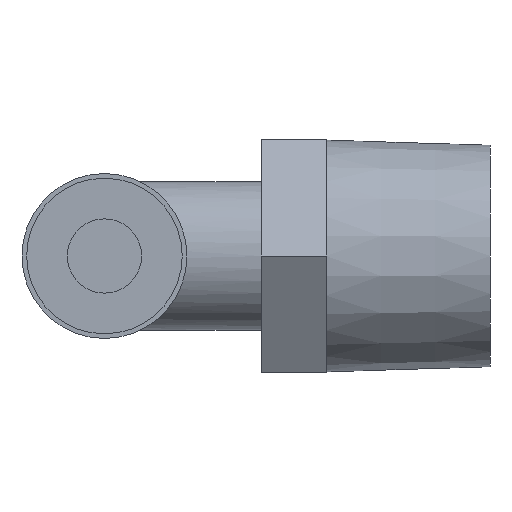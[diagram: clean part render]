
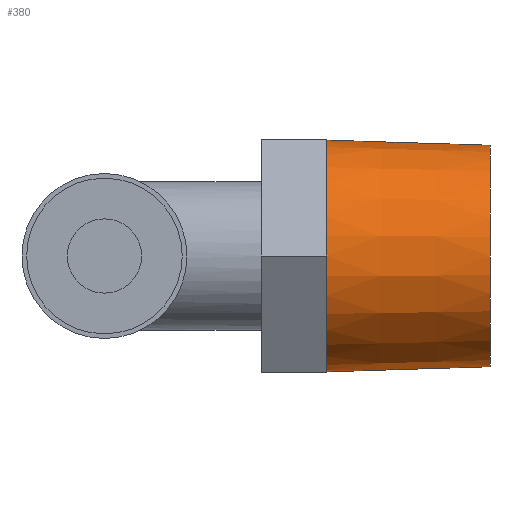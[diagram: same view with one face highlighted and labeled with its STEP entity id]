
A CAD part, left-side view. The second image highlights one B-rep face of the part: STEP entity #380.
In plain terms, the highlighted conical face has half-angle 1.788 degrees and reference radius 4.989 mm.
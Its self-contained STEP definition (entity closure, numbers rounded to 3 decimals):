
#20=CONICAL_SURFACE('',#427,4.989,0.031);
#113=ORIENTED_EDGE('',*,*,#181,.F.);
#114=ORIENTED_EDGE('',*,*,#182,.T.);
#181=EDGE_CURVE('',#216,#216,#237,.T.);
#182=EDGE_CURVE('',#217,#217,#238,.T.);
#216=VERTEX_POINT('',#640);
#217=VERTEX_POINT('',#643);
#237=CIRCLE('',#426,4.769);
#238=CIRCLE('',#428,4.989);
#268=EDGE_LOOP('',(#113));
#269=EDGE_LOOP('',(#114));
#320=FACE_BOUND('',#268,.T.);
#321=FACE_BOUND('',#269,.T.);
#380=ADVANCED_FACE('',(#320,#321),#20,.T.);
#426=AXIS2_PLACEMENT_3D('',#639,#511,#512);
#427=AXIS2_PLACEMENT_3D('',#641,#513,#514);
#428=AXIS2_PLACEMENT_3D('',#642,#515,#516);
#511=DIRECTION('',(0.,-1.,0.));
#512=DIRECTION('',(0.,0.,-1.));
#513=DIRECTION('',(0.,1.,0.));
#514=DIRECTION('',(-1.,0.,0.));
#515=DIRECTION('',(0.,-1.,0.));
#516=DIRECTION('',(1.,0.,0.));
#639=CARTESIAN_POINT('',(0.,-3.05,0.));
#640=CARTESIAN_POINT('',(0.,-3.05,-4.769));
#641=CARTESIAN_POINT('',(0.,4.,0.));
#642=CARTESIAN_POINT('',(0.,4.,0.));
#643=CARTESIAN_POINT('',(4.989,4.,0.));
